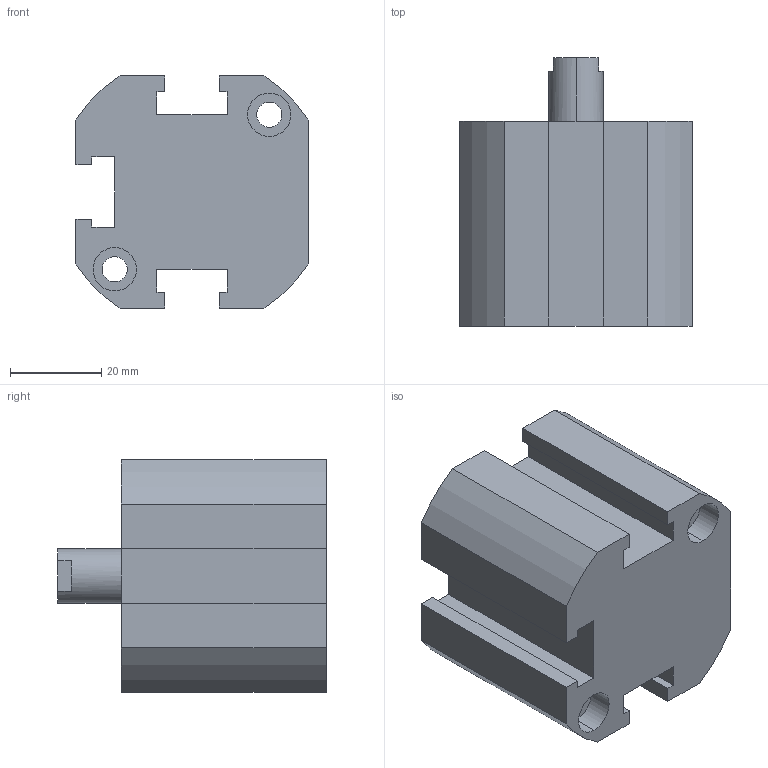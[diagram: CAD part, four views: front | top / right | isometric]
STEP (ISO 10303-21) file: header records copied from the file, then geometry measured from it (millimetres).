
FILE_DESCRIPTION (( 'STEP AP203' ), '1' );
FILE_NAME ('XG#0-32D-10.STEP', '2016-05-24T01:37:01', ( '' ), ( '' ), 'SwSTEP 2.0', 'SolidWorks 2014', '' );
FILE_SCHEMA (( 'CONFIG_CONTROL_DESIGN' ));
Length unit declared in the file: millimetre
Products named in the file (1): XG#0-32D-10
Bounding box: 51 x 59 x 51 mm (x, y, z)
Volume: 90497.2 mm3; surface area: 18690.8 mm2
Topology: 1 solids, 1 shells, 91 faces, 231 edges, 150 vertices
Faces by surface type: plane 45, cylinder 40, cone 6
Entity records: 2822 total; most frequent: DIRECTION 499, CARTESIAN_POINT 469, ORIENTED_EDGE 454, EDGE_CURVE 227, AXIS2_PLACEMENT_3D 180, VERTEX_POINT 150, VECTOR 139, LINE 139
